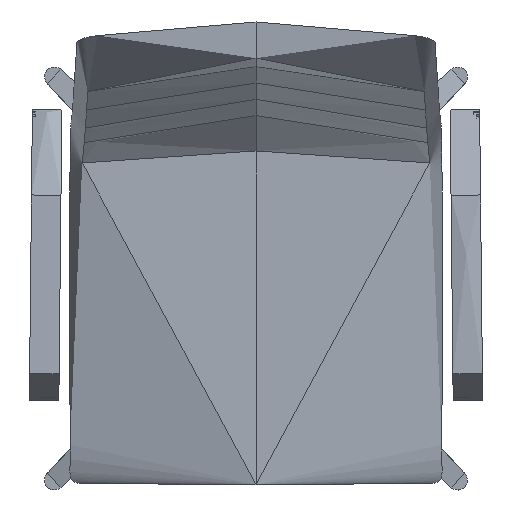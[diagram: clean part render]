
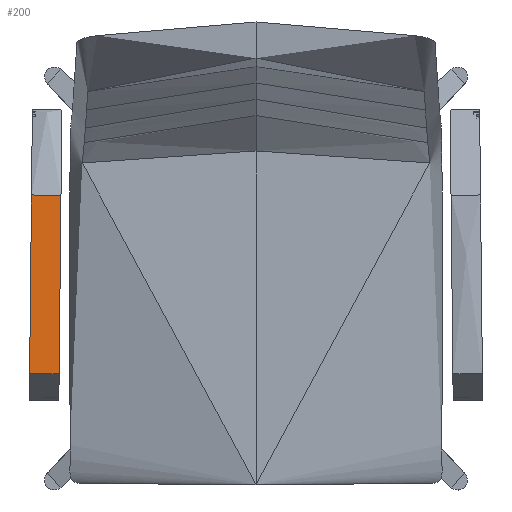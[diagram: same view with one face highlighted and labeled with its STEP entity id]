
A CAD part, top view. The second image highlights one B-rep face of the part: STEP entity #200.
In plain terms, the highlighted free-form (B-spline) face has degree [3, 3] with [5, 4] control points.
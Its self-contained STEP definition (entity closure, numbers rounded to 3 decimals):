
#200=ADVANCED_FACE('',(#465),#3876,.T.);
#465=FACE_OUTER_BOUND('',#734,.T.);
#734=EDGE_LOOP('',(#1538,#1539,#1540,#1541));
#1538=ORIENTED_EDGE('',*,*,#2432,.F.);
#1539=ORIENTED_EDGE('',*,*,#2431,.F.);
#1540=ORIENTED_EDGE('',*,*,#2430,.F.);
#1541=ORIENTED_EDGE('',*,*,#2429,.F.);
#2429=EDGE_CURVE('',#3572,#3573,#3204,.T.);
#2430=EDGE_CURVE('',#3573,#3574,#3205,.T.);
#2431=EDGE_CURVE('',#3574,#3575,#3206,.T.);
#2432=EDGE_CURVE('',#3575,#3572,#3207,.T.);
#3204=(
BOUNDED_CURVE()
B_SPLINE_CURVE(3,(#13619,#13620,#13621,#13622),.UNSPECIFIED.,.F.,.F.)
B_SPLINE_CURVE_WITH_KNOTS((4,4),(0.,217.847),.UNSPECIFIED.)
CURVE()
GEOMETRIC_REPRESENTATION_ITEM()
RATIONAL_B_SPLINE_CURVE((1.,1.,1.,1.))
REPRESENTATION_ITEM('')
);
#3205=(
BOUNDED_CURVE()
B_SPLINE_CURVE(3,(#13623,#13624,#13625,#13626,#13627),.UNSPECIFIED.,.F.,
 .F.)
B_SPLINE_CURVE_WITH_KNOTS((4,1,4),(-36.993,-18.496,
0.),.UNSPECIFIED.)
CURVE()
GEOMETRIC_REPRESENTATION_ITEM()
RATIONAL_B_SPLINE_CURVE((1.,1.,1.,1.,1.))
REPRESENTATION_ITEM('')
);
#3206=(
BOUNDED_CURVE()
B_SPLINE_CURVE(3,(#13628,#13629,#13630,#13631),.UNSPECIFIED.,.F.,.F.)
B_SPLINE_CURVE_WITH_KNOTS((4,4),(-217.847,0.),.UNSPECIFIED.)
CURVE()
GEOMETRIC_REPRESENTATION_ITEM()
RATIONAL_B_SPLINE_CURVE((1.,1.,1.,1.))
REPRESENTATION_ITEM('')
);
#3207=(
BOUNDED_CURVE()
B_SPLINE_CURVE(3,(#13632,#13633,#13634,#13635,#13636),.UNSPECIFIED.,.F.,
 .F.)
B_SPLINE_CURVE_WITH_KNOTS((4,1,4),(0.,18.496,36.993),
 .UNSPECIFIED.)
CURVE()
GEOMETRIC_REPRESENTATION_ITEM()
RATIONAL_B_SPLINE_CURVE((1.,1.,1.,1.,1.))
REPRESENTATION_ITEM('')
);
#3572=VERTEX_POINT('',#13478);
#3573=VERTEX_POINT('',#13479);
#3574=VERTEX_POINT('',#13480);
#3575=VERTEX_POINT('',#13481);
#3876=(
BOUNDED_SURFACE()
B_SPLINE_SURFACE(3,3,((#13104,#13105,#13106,#13107),(#13108,#13109,#13110,
#13111),(#13112,#13113,#13114,#13115),(#13116,#13117,#13118,#13119),(#13120,
#13121,#13122,#13123)),.UNSPECIFIED.,.F.,.F.,.F.)
B_SPLINE_SURFACE_WITH_KNOTS((4,1,4),(4,4),(-36.993,-18.496,
0.),(0.,217.847),.UNSPECIFIED.)
GEOMETRIC_REPRESENTATION_ITEM()
RATIONAL_B_SPLINE_SURFACE(((1.,1.,1.,1.),(1.,1.,1.,1.),(1.,1.,1.,1.),(1.,
1.,1.,1.),(1.,1.,1.,1.)))
REPRESENTATION_ITEM('')
SURFACE()
);
#13104=CARTESIAN_POINT('',(-237.986,100.487,641.621));
#13105=CARTESIAN_POINT('',(-238.746,27.912,643.941));
#13106=CARTESIAN_POINT('',(-239.509,-44.946,646.27));
#13107=CARTESIAN_POINT('',(-240.269,-117.521,648.591));
#13108=CARTESIAN_POINT('',(-244.421,100.551,644.077));
#13109=CARTESIAN_POINT('',(-245.181,27.977,646.397));
#13110=CARTESIAN_POINT('',(-246.042,-44.711,648.665));
#13111=CARTESIAN_POINT('',(-246.802,-117.286,650.986));
#13112=CARTESIAN_POINT('',(-255.46,100.663,646.937));
#13113=CARTESIAN_POINT('',(-256.22,28.089,649.257));
#13114=CARTESIAN_POINT('',(-256.817,-44.396,651.561));
#13115=CARTESIAN_POINT('',(-257.577,-116.97,653.881));
#13116=CARTESIAN_POINT('',(-268.599,100.804,644.54));
#13117=CARTESIAN_POINT('',(-269.359,28.229,646.861));
#13118=CARTESIAN_POINT('',(-270.346,-44.413,649.268));
#13119=CARTESIAN_POINT('',(-271.106,-116.988,651.588));
#13120=CARTESIAN_POINT('',(-273.984,100.864,641.621));
#13121=CARTESIAN_POINT('',(-274.744,28.289,643.941));
#13122=CARTESIAN_POINT('',(-275.507,-44.569,646.27));
#13123=CARTESIAN_POINT('',(-276.267,-117.144,648.591));
#13478=CARTESIAN_POINT('',(-237.986,100.487,641.621));
#13479=CARTESIAN_POINT('',(-240.269,-117.521,648.591));
#13480=CARTESIAN_POINT('',(-276.267,-117.144,648.591));
#13481=CARTESIAN_POINT('',(-273.984,100.864,641.621));
#13619=CARTESIAN_POINT('',(-237.986,100.487,641.621));
#13620=CARTESIAN_POINT('',(-238.746,27.912,643.941));
#13621=CARTESIAN_POINT('',(-239.509,-44.946,646.27));
#13622=CARTESIAN_POINT('',(-240.269,-117.521,648.591));
#13623=CARTESIAN_POINT('',(-240.269,-117.521,648.591));
#13624=CARTESIAN_POINT('',(-246.802,-117.286,650.986));
#13625=CARTESIAN_POINT('',(-257.577,-116.97,653.881));
#13626=CARTESIAN_POINT('',(-271.106,-116.988,651.588));
#13627=CARTESIAN_POINT('',(-276.267,-117.144,648.591));
#13628=CARTESIAN_POINT('',(-276.267,-117.144,648.591));
#13629=CARTESIAN_POINT('',(-275.507,-44.569,646.27));
#13630=CARTESIAN_POINT('',(-274.744,28.289,643.941));
#13631=CARTESIAN_POINT('',(-273.984,100.864,641.621));
#13632=CARTESIAN_POINT('',(-273.984,100.864,641.621));
#13633=CARTESIAN_POINT('',(-268.599,100.804,644.54));
#13634=CARTESIAN_POINT('',(-255.46,100.663,646.937));
#13635=CARTESIAN_POINT('',(-244.421,100.551,644.077));
#13636=CARTESIAN_POINT('',(-237.986,100.487,641.621));
